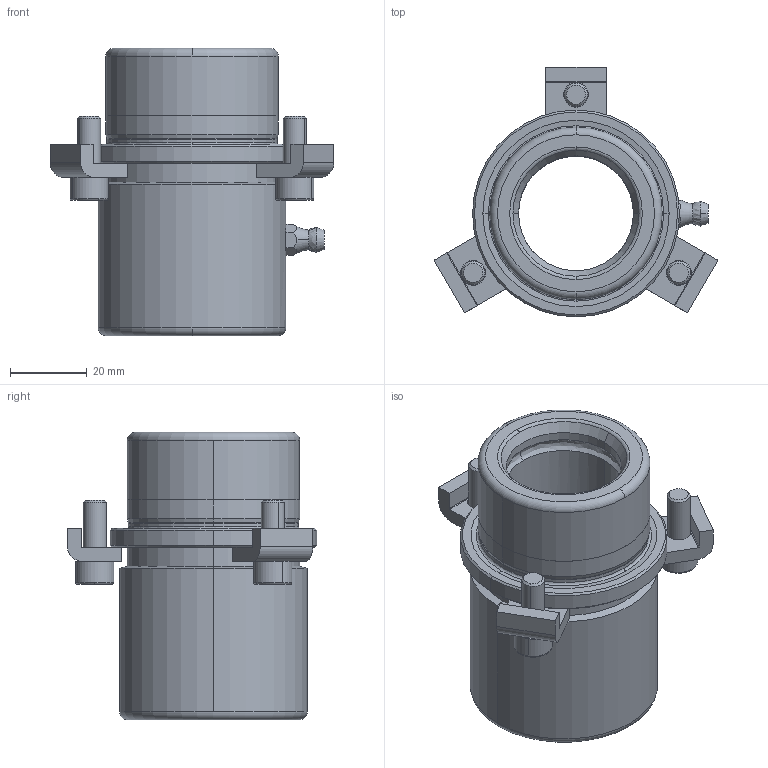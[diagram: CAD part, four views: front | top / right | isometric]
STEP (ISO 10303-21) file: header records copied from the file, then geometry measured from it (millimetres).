
FILE_DESCRIPTION((''),'2;1');
FILE_NAME('B10_030_050.stp','2008-11-06T08:37:09',(''),(''),'Mechanical Desktop 2009','Mechanical Desktop 2009',', , ');
FILE_SCHEMA(('CONFIG_CONTROL_DESIGN'));
Length unit declared in the file: millimetre
Products named in the file (2): Product; blmdl1
Assembly tree (1 placements, depth 2):
  Product
    blmdl1
Bounding box: 74.11 x 65.2 x 75 mm (x, y, z)
Volume: 85577.8 mm3; surface area: 26728.3 mm2
Topology: 8 solids, 8 shells, 170 faces, 445 edges, 292 vertices
Faces by surface type: plane 68, cylinder 48, cone 22, bspline 16, torus 16
Entity records: 6504 total; most frequent: CARTESIAN_POINT 2130, DIRECTION 939, ORIENTED_EDGE 882, EDGE_CURVE 441, AXIS2_PLACEMENT_3D 371, VERTEX_POINT 290, CIRCLE 215, VECTOR 197
